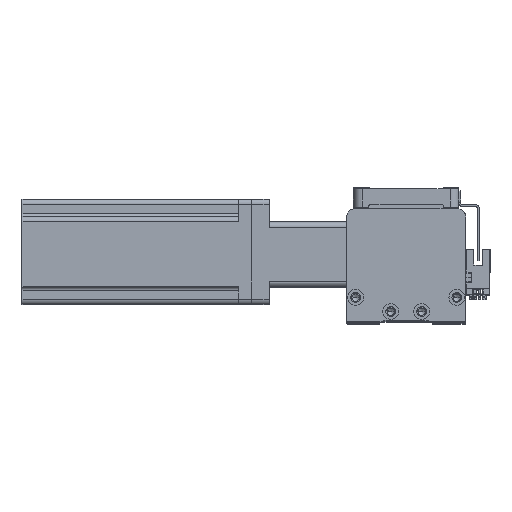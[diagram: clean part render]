
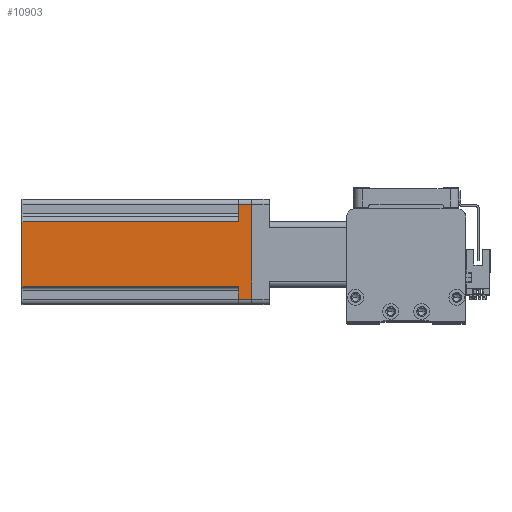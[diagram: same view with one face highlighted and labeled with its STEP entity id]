
A CAD part, top view. The second image highlights one B-rep face of the part: STEP entity #10903.
In plain terms, the highlighted planar face has unit normal (0, 0, 1) as drawn and (-1, 0, 0) by its records, which use the part's own axes.
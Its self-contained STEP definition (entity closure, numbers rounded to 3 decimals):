
#564 = CARTESIAN_POINT ( 'NONE',  ( -30., -30., 130.7 ) ) ;
#673 = VECTOR ( 'NONE', #23153, 1000. ) ;
#1445 = ORIENTED_EDGE ( 'NONE', *, *, #25654, .T. ) ;
#3858 = DIRECTION ( 'NONE',  ( 0., 0., -1. ) ) ;
#6110 = ORIENTED_EDGE ( 'NONE', *, *, #16907, .F. ) ;
#6210 = LINE ( 'NONE', #6328, #30364 ) ;
#6328 = CARTESIAN_POINT ( 'NONE',  ( -30., 20., 7.5 ) ) ;
#6403 = LINE ( 'NONE', #6459, #21860 ) ;
#6459 = CARTESIAN_POINT ( 'NONE',  ( -30., -30., 0. ) ) ;
#6956 = ORIENTED_EDGE ( 'NONE', *, *, #42222, .T. ) ;
#7837 = CARTESIAN_POINT ( 'NONE',  ( -30., -27., 0. ) ) ;
#8119 = LINE ( 'NONE', #41669, #14802 ) ;
#8606 = CARTESIAN_POINT ( 'NONE',  ( -30., 27., 130.7 ) ) ;
#9722 = DIRECTION ( 'NONE',  ( 0., -1., 0. ) ) ;
#10474 = CARTESIAN_POINT ( 'NONE',  ( -30., 27., 7.5 ) ) ;
#10510 = FACE_OUTER_BOUND ( 'NONE', #20126, .T. ) ;
#10903 = ADVANCED_FACE ( 'NONE', ( #10510 ), #13430, .F. ) ;
#11623 = EDGE_CURVE ( 'NONE', #13586, #31123, #15068, .T. ) ;
#12119 = CARTESIAN_POINT ( 'NONE',  ( -30., 27., 0. ) ) ;
#12515 = ORIENTED_EDGE ( 'NONE', *, *, #11623, .T. ) ;
#12791 = EDGE_CURVE ( 'NONE', #28739, #15308, #6210, .T. ) ;
#13385 = DIRECTION ( 'NONE',  ( 0., 1., 0. ) ) ;
#13430 = PLANE ( 'NONE',  #14015 ) ;
#13586 = VERTEX_POINT ( 'NONE', #7837 ) ;
#14015 = AXIS2_PLACEMENT_3D ( 'NONE', #564, #23546, #3858 ) ;
#14802 = VECTOR ( 'NONE', #35275, 1000. ) ;
#15068 = LINE ( 'NONE', #25756, #22362 ) ;
#15109 = CARTESIAN_POINT ( 'NONE',  ( -30., -17., 130.7 ) ) ;
#15308 = VERTEX_POINT ( 'NONE', #27183 ) ;
#16344 = VERTEX_POINT ( 'NONE', #10474 ) ;
#16667 = CARTESIAN_POINT ( 'NONE',  ( -30., -30., 130.7 ) ) ;
#16907 = EDGE_CURVE ( 'NONE', #29877, #31123, #28406, .T. ) ;
#18035 = VERTEX_POINT ( 'NONE', #12119 ) ;
#18123 = LINE ( 'NONE', #16667, #673 ) ;
#18647 = VECTOR ( 'NONE', #30555, 1000. ) ;
#20126 = EDGE_LOOP ( 'NONE', ( #6110, #30371, #37856, #29832, #6956, #34207, #1445, #12515 ) ) ;
#20290 = CARTESIAN_POINT ( 'NONE',  ( -30., -27., 7.5 ) ) ;
#21860 = VECTOR ( 'NONE', #9722, 1000. ) ;
#22013 = DIRECTION ( 'NONE',  ( 0., 0., -1. ) ) ;
#22362 = VECTOR ( 'NONE', #29032, 1000. ) ;
#23153 = DIRECTION ( 'NONE',  ( 0., -1., 0. ) ) ;
#23546 = DIRECTION ( 'NONE',  ( 1., 0., 0. ) ) ;
#23716 = VECTOR ( 'NONE', #22013, 1000. ) ;
#23805 = EDGE_CURVE ( 'NONE', #29877, #37126, #8119, .T. ) ;
#23809 = VECTOR ( 'NONE', #13385, 1000. ) ;
#24759 = LINE ( 'NONE', #8606, #23716 ) ;
#24840 = LINE ( 'NONE', #33080, #23809 ) ;
#25654 = EDGE_CURVE ( 'NONE', #18035, #13586, #6403, .T. ) ;
#25756 = CARTESIAN_POINT ( 'NONE',  ( -30., -27., 130.7 ) ) ;
#26988 = EDGE_CURVE ( 'NONE', #16344, #18035, #24759, .T. ) ;
#27183 = CARTESIAN_POINT ( 'NONE',  ( -30., 20., 130.7 ) ) ;
#28406 = LINE ( 'NONE', #37009, #18647 ) ;
#28587 = EDGE_CURVE ( 'NONE', #15308, #37126, #18123, .T. ) ;
#28739 = VERTEX_POINT ( 'NONE', #37174 ) ;
#29032 = DIRECTION ( 'NONE',  ( 0., 0., 1. ) ) ;
#29832 = ORIENTED_EDGE ( 'NONE', *, *, #12791, .F. ) ;
#29877 = VERTEX_POINT ( 'NONE', #38060 ) ;
#30364 = VECTOR ( 'NONE', #42430, 1000. ) ;
#30371 = ORIENTED_EDGE ( 'NONE', *, *, #23805, .T. ) ;
#30555 = DIRECTION ( 'NONE',  ( 0., -1., 0. ) ) ;
#31123 = VERTEX_POINT ( 'NONE', #20290 ) ;
#33080 = CARTESIAN_POINT ( 'NONE',  ( -30., 30., 7.5 ) ) ;
#34207 = ORIENTED_EDGE ( 'NONE', *, *, #26988, .T. ) ;
#35275 = DIRECTION ( 'NONE',  ( 0., 0., 1. ) ) ;
#37009 = CARTESIAN_POINT ( 'NONE',  ( -30., -30., 7.5 ) ) ;
#37126 = VERTEX_POINT ( 'NONE', #15109 ) ;
#37174 = CARTESIAN_POINT ( 'NONE',  ( -30., 20., 7.5 ) ) ;
#37856 = ORIENTED_EDGE ( 'NONE', *, *, #28587, .F. ) ;
#38060 = CARTESIAN_POINT ( 'NONE',  ( -30., -17., 7.5 ) ) ;
#41669 = CARTESIAN_POINT ( 'NONE',  ( -30., -17., 130.7 ) ) ;
#42222 = EDGE_CURVE ( 'NONE', #28739, #16344, #24840, .T. ) ;
#42430 = DIRECTION ( 'NONE',  ( 0., 0., 1. ) ) ;
